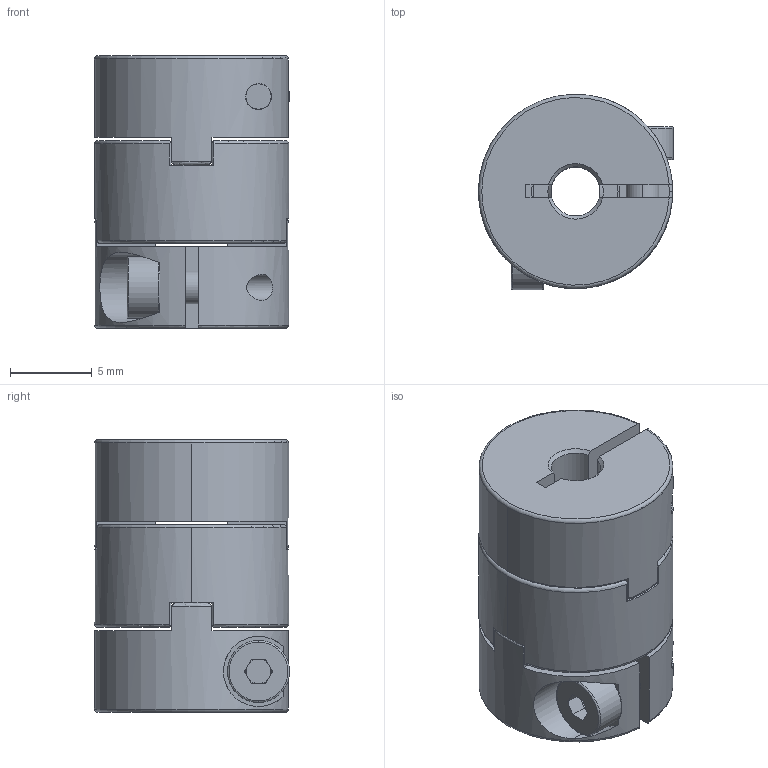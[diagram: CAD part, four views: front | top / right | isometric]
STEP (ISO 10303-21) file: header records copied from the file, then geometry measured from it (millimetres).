
FILE_DESCRIPTION (( 'STEP AP214' ), '1' );
FILE_NAME ('SOH-12C ASS''Y.STEP', '2016-02-05T05:29:39', ( '' ), ( '' ), 'SwSTEP 2.0', 'SolidWorks 2015', '' );
FILE_SCHEMA (( 'AUTOMOTIVE_DESIGN' ));
Length unit declared in the file: millimetre
Products named in the file (1): SOH-12C ASS''Y
Bounding box: 11.95 x 11.95 x 16.7 mm (x, y, z)
Surface area: 1584.5 mm2 (no closed solid volume)
Topology: 0 solids, 7 shells, 141 faces, 440 edges, 299 vertices
Faces by surface type: plane 68, cylinder 42, torus 19, cone 12
Entity records: 6698 total; most frequent: CARTESIAN_POINT 1309, DIRECTION 808, ORIENTED_EDGE 724, EDGE_CURVE 440, VERTEX_POINT 299, AXIS2_PLACEMENT_3D 298, LINE 212, VECTOR 212
